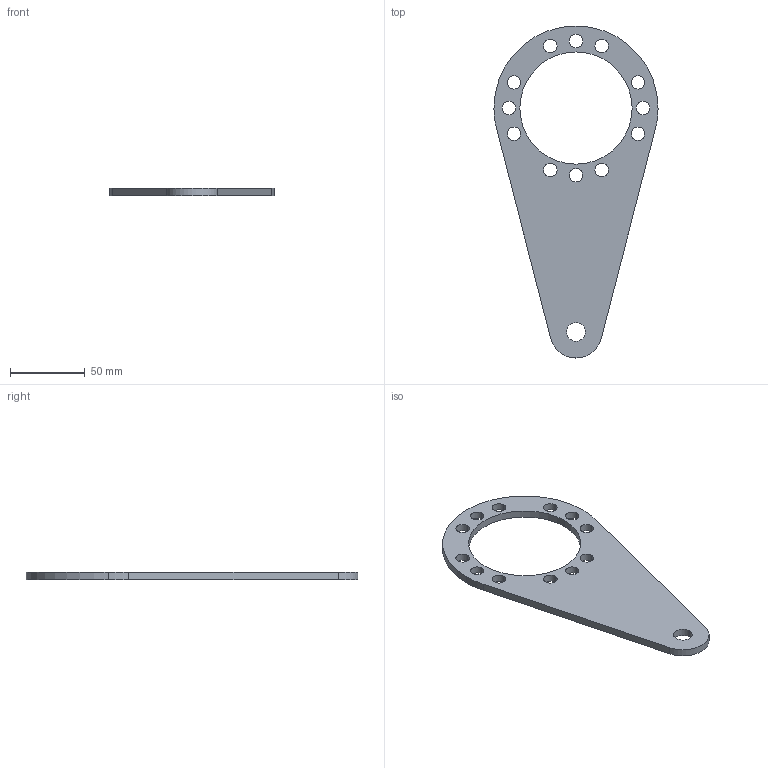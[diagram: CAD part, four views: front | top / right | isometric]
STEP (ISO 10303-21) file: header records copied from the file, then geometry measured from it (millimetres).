
FILE_DESCRIPTION (( 'STEP AP203' ), '1' );
FILE_NAME ('084.808.005-1.STEP', '2013-01-29T12:54:18', ( 'Alusic' ), ( 'Alusic' ), 'SwSTEP 2.0', 'SolidWorks 2011', '' );
FILE_SCHEMA (( 'CONFIG_CONTROL_DESIGN' ));
Length unit declared in the file: millimetre
Products named in the file (1): 084.808.005-1
Bounding box: 110 x 222.5 x 5 mm (x, y, z)
Volume: 55608.9 mm3; surface area: 28003.6 mm2
Topology: 1 solids, 1 shells, 36 faces, 102 edges, 68 vertices
Faces by surface type: cylinder 32, plane 4
Entity records: 1343 total; most frequent: DIRECTION 240, CARTESIAN_POINT 207, ORIENTED_EDGE 204, EDGE_CURVE 102, AXIS2_PLACEMENT_3D 101, VERTEX_POINT 68, EDGE_LOOP 64, CIRCLE 64
